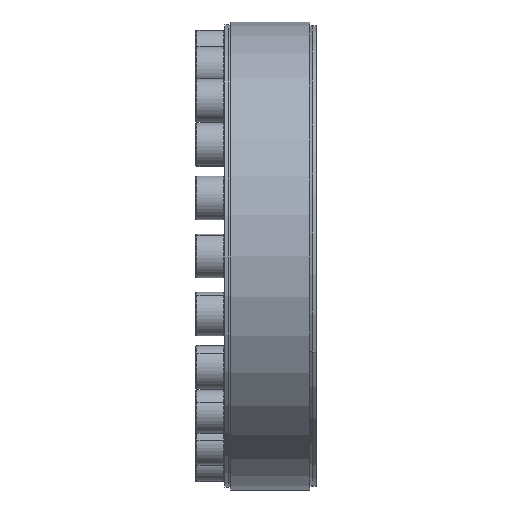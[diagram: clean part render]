
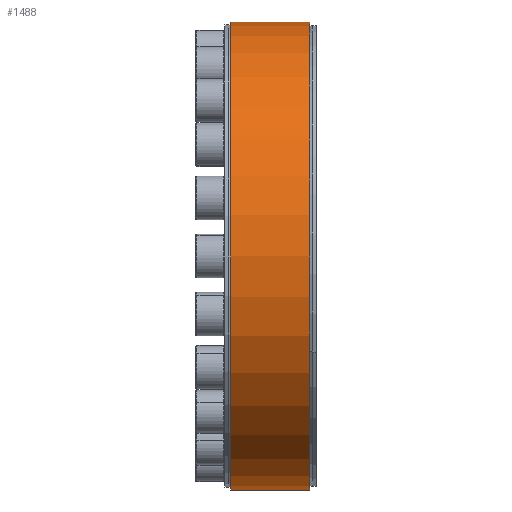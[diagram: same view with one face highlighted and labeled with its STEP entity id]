
A CAD part, front view. The second image highlights one B-rep face of the part: STEP entity #1488.
In plain terms, the highlighted cylindrical face has radius 112.5 mm (diameter 225 mm), a partial arc.
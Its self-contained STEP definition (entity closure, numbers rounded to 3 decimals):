
#1273 = AXIS2_PLACEMENT_3D ( 'NONE', #3729, #4968, #2265 ) ;
#1466 = DIRECTION ( 'NONE',  ( 1., 0., 0. ) ) ;
#1488 = ADVANCED_FACE ( 'NONE', ( #5082 ), #8314, .T. ) ;
#1554 = EDGE_CURVE ( 'NONE', #6270, #3725, #12718, .T. ) ;
#1573 = DIRECTION ( 'NONE',  ( 1., 0., 0. ) ) ;
#1690 = DIRECTION ( 'NONE',  ( 0., 0., -1. ) ) ;
#2265 = DIRECTION ( 'NONE',  ( 0., 0., -1. ) ) ;
#2817 = EDGE_CURVE ( 'NONE', #3725, #6004, #4666, .T. ) ;
#2928 = CARTESIAN_POINT ( 'NONE',  ( 19., 0., 0. ) ) ;
#3295 = EDGE_CURVE ( 'NONE', #6270, #4408, #15320, .T. ) ;
#3694 = ORIENTED_EDGE ( 'NONE', *, *, #4813, .T. ) ;
#3725 = VERTEX_POINT ( 'NONE', #16023 ) ;
#3729 = CARTESIAN_POINT ( 'NONE',  ( 22., 0., 0. ) ) ;
#4075 = VECTOR ( 'NONE', #1466, 1000. ) ;
#4408 = VERTEX_POINT ( 'NONE', #6569 ) ;
#4590 = ORIENTED_EDGE ( 'NONE', *, *, #1554, .F. ) ;
#4666 = CIRCLE ( 'NONE', #12073, 112.5 ) ;
#4813 = EDGE_CURVE ( 'NONE', #4408, #6004, #11044, .T. ) ;
#4968 = DIRECTION ( 'NONE',  ( 1., 0., 0. ) ) ;
#5082 = FACE_OUTER_BOUND ( 'NONE', #6299, .T. ) ;
#5550 = ORIENTED_EDGE ( 'NONE', *, *, #2817, .F. ) ;
#6004 = VERTEX_POINT ( 'NONE', #10737 ) ;
#6270 = VERTEX_POINT ( 'NONE', #11800 ) ;
#6299 = EDGE_LOOP ( 'NONE', ( #4590, #9698, #3694, #5550 ) ) ;
#6569 = CARTESIAN_POINT ( 'NONE',  ( -19., 0., -112.5 ) ) ;
#7133 = AXIS2_PLACEMENT_3D ( 'NONE', #13873, #15102, #11430 ) ;
#8221 = VECTOR ( 'NONE', #8478, 1000. ) ;
#8314 = CYLINDRICAL_SURFACE ( 'NONE', #1273, 112.5 ) ;
#8478 = DIRECTION ( 'NONE',  ( 1., 0., 0. ) ) ;
#9698 = ORIENTED_EDGE ( 'NONE', *, *, #3295, .T. ) ;
#10737 = CARTESIAN_POINT ( 'NONE',  ( 19., 0., -112.5 ) ) ;
#11044 = LINE ( 'NONE', #13716, #8221 ) ;
#11430 = DIRECTION ( 'NONE',  ( 0., 0., -1. ) ) ;
#11800 = CARTESIAN_POINT ( 'NONE',  ( -19., 0., 112.5 ) ) ;
#12073 = AXIS2_PLACEMENT_3D ( 'NONE', #2928, #1573, #1690 ) ;
#12718 = LINE ( 'NONE', #13973, #4075 ) ;
#13716 = CARTESIAN_POINT ( 'NONE',  ( 22., 0., -112.5 ) ) ;
#13873 = CARTESIAN_POINT ( 'NONE',  ( -19., 0., 0. ) ) ;
#13973 = CARTESIAN_POINT ( 'NONE',  ( 22., 0., 112.5 ) ) ;
#15102 = DIRECTION ( 'NONE',  ( 1., 0., 0. ) ) ;
#15320 = CIRCLE ( 'NONE', #7133, 112.5 ) ;
#16023 = CARTESIAN_POINT ( 'NONE',  ( 19., 0., 112.5 ) ) ;
